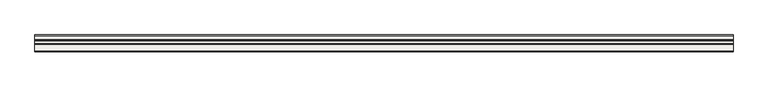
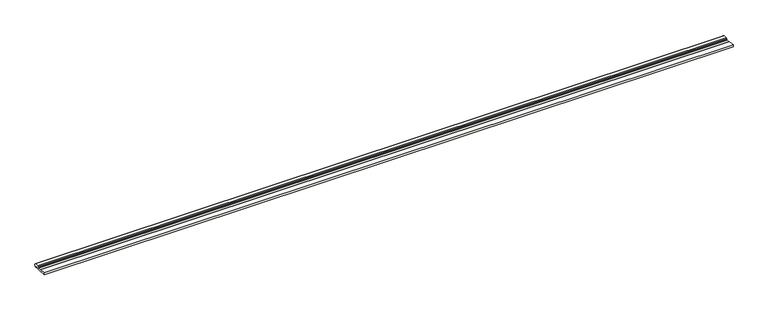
"""IFC4 building model written with IfcOpenShell, lengths in millimetres: slab geometry, ROSA GRES_G49 : Pieza G49_Aqua_Plomo_Anti-Slip."""

from ifc_helpers import new_model, si_unit, point, frame, frame_2d, origin, place, context, project, spatial, polyline, circle_curve, trimmed, segment, composite_curve, outline, extrude, source, transform, mapped, element, save


def slab_3115b348(model_context):
    return source(origin(), model_context, "Body", "SweptSolid", [
        extrude(outline(composite_curve([segment(polyline([(-0.4959854, 174.3946403), (-15.4742511, 175.6138015)]), True, "CONTINUOUS"), segment(trimmed(circle_curve(frame_2d((-27.0041663, 174.9936892)), 11.5465789), [point((-15.4742511, 175.6138015))], [point((-38.2820268, 177.4702483))], True, "CARTESIAN"), True, "CONTINUOUS"), segment(polyline([(-38.2820268, 177.4702483), (-119.1037338, 184.0487594), (-117.9849268, 197.7941027), (-69.9836117, 193.8870189), (-69.5852402, 193.1051707)]), True, "CONTINUOUS"), segment(trimmed(circle_curve(frame_2d((-63.9188624, 195.2410459)), 6.0555595), [point((-69.5852402, 193.1051707))], [point((-64.4101321, 189.205447))], True, "CARTESIAN"), True, "CONTINUOUS"), segment(polyline([(-64.4101321, 189.205447), (-44.9243788, 187.6193973)]), True, "CONTINUOUS"), segment(trimmed(circle_curve(frame_2d((-44.6810926, 190.6083422)), 2.9988298), [point((-44.9243788, 187.6193973))], [point((-42.1786827, 188.9557911))], True, "CARTESIAN"), True, "CONTINUOUS"), segment(polyline([(-42.1786827, 188.9557911), (-41.0138307, 190.7196924), (-38.3959439, 195.0159662), (-34.9297931, 201.7687131), (-8.4761969, 199.6155199)]), True, "CONTINUOUS"), segment(trimmed(circle_curve(frame_2d((-9.287465, 189.648482)), 10.0), [point((-8.4761969, 199.6155199))], [point((0.6795727, 188.8372115))], False, "CARTESIAN"), True, "CONTINUOUS"), segment(polyline([(0.6795727, 188.8372115), (-0.4959854, 174.3946403)]), True, "CONTINUOUS")], self_intersect=False)), frame((0.0, 0.0, 0.0), z_axis=(1.0, 0.0, 0.0), x_axis=(0.0, 1.0, 0.0)), (0.0, 0.0, 1.0), 5000.9856418),
    ])


if __name__ == "__main__":
    model = new_model("IFC4")
    model_context = context("Model", 3, world=origin())
    ifc_project = project(units=[si_unit("LENGTHUNIT", "METRE", prefix="MILLI")], contexts=[model_context])
    site = spatial("IfcSite", under=ifc_project)
    building = spatial("IfcBuilding", under=site)
    placement = place(None, origin())
    slab_shape = slab_3115b348(model_context)
    element("IfcSlab", 1, ObjectType="ROSA GRES_G49 : Pieza G49_Aqua_Plomo_Anti-Slip", at=placement, inside=building, context=model_context, shape_type="MappedRepresentation", body=[
        mapped(slab_shape, transform((0.0, 0.0, 0.0), x_axis=(1.0, 0.0, 0.0), y_axis=(0.0, 1.0, 0.0), z_axis=(0.0, 0.0, 1.0))),
    ])
    save(model, "model.ifc")
